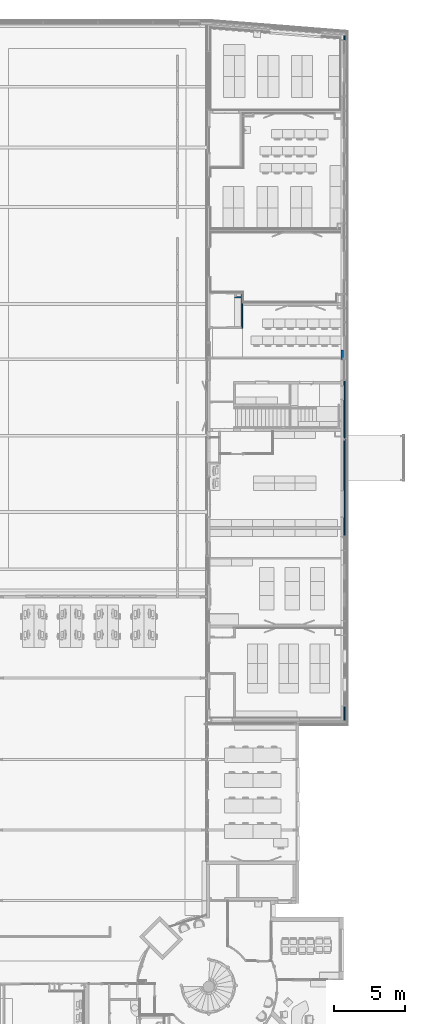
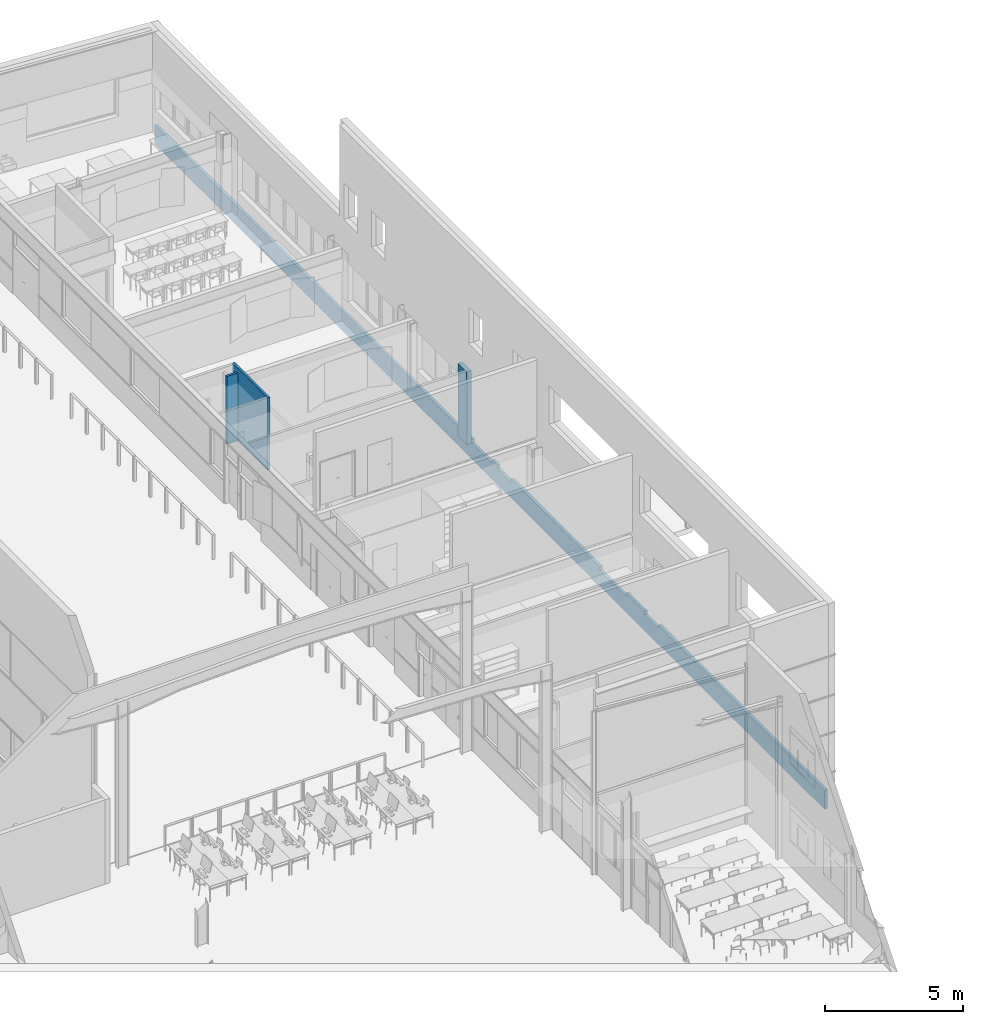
# One storey, part 64 of 137: 4 walls, 4 openings.
"""IFC2X3 building model written with IfcOpenShell, lengths in centimetres."""

from ifc_helpers import new_model, entity, si_unit, converted_unit, derived_unit, direction, frame, frame_2d, origin, origin_2d_with_axis, place, context, subcontext, project, spatial, polyline, rectangle, outline, extrude, clip, bounded_halfspace, material, layer, layer_set, layer_usage, type_object, element, save


model = new_model("IFC2X3")

# Units and contexts
model_context = context("Model", 3, precision=0.001, world=origin(), true_north=direction((6.12303176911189e-17, 1.0)))
body_context = subcontext(model_context, "Body", "Model", "MODEL_VIEW")
ifc_project = project(units=[si_unit("LENGTHUNIT", "METRE", prefix="CENTI"), si_unit("AREAUNIT", "SQUARE_METRE"), si_unit("VOLUMEUNIT", "CUBIC_METRE"), converted_unit("PLANEANGLEUNIT", "DEGREE", entity("IfcRatioMeasure", 0.0174532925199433), si_unit("PLANEANGLEUNIT", "RADIAN"), dimensions=[0, 0, 0, 0, 0, 0, 0]), si_unit("MASSUNIT", "GRAM", prefix="KILO"), si_unit("TIMEUNIT", "SECOND"), si_unit("FREQUENCYUNIT", "HERTZ"), si_unit("THERMODYNAMICTEMPERATUREUNIT", "DEGREE_CELSIUS"), derived_unit("THERMALTRANSMITTANCEUNIT", [(si_unit("MASSUNIT", "GRAM", prefix="KILO"), 1), (si_unit("THERMODYNAMICTEMPERATUREUNIT", "KELVIN"), -1), (si_unit("TIMEUNIT", "SECOND"), -3)]), derived_unit("VOLUMETRICFLOWRATEUNIT", [(si_unit("LENGTHUNIT", "METRE"), 3), (si_unit("TIMEUNIT", "SECOND"), -1)]), si_unit("ELECTRICCURRENTUNIT", "AMPERE"), si_unit("ELECTRICVOLTAGEUNIT", "VOLT"), si_unit("POWERUNIT", "WATT"), si_unit("FORCEUNIT", "NEWTON", prefix="KILO"), si_unit("ILLUMINANCEUNIT", "LUX"), si_unit("LUMINOUSFLUXUNIT", "LUMEN"), si_unit("LUMINOUSINTENSITYUNIT", "CANDELA"), derived_unit("USERDEFINED", [(si_unit("MASSUNIT", "GRAM", prefix="KILO"), -1), (si_unit("LENGTHUNIT", "METRE"), -2), (si_unit("TIMEUNIT", "SECOND"), 3), (si_unit("LUMINOUSFLUXUNIT", "LUMEN"), 1)]), derived_unit("LINEARVELOCITYUNIT", [(si_unit("LENGTHUNIT", "METRE"), 1), (si_unit("TIMEUNIT", "SECOND"), -1)]), si_unit("PRESSUREUNIT", "PASCAL"), derived_unit("USERDEFINED", [(si_unit("LENGTHUNIT", "METRE"), -2), (si_unit("MASSUNIT", "GRAM", prefix="KILO"), 1), (si_unit("TIMEUNIT", "SECOND"), -2)])], contexts=[model_context])

# Site, building, storey
site_placement = place(None, frame((8.62739174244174, -249.285249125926, 0.0)))
site = spatial("IfcSite", under=ifc_project, at=site_placement, Name="Default", CompositionType="ELEMENT")
building_placement = place(site_placement, origin())
building = spatial("IfcBuilding", under=site, at=building_placement, CompositionType="ELEMENT")
storey_placement = place(building_placement, origin())
storey = spatial("IfcBuildingStorey", under=building, at=storey_placement, Name="RDC", CompositionType="ELEMENT", Elevation=-8.82465566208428e-11)

# Walls
ifc_material_1 = material(Name="Plâtre")
ifc_layer_1 = layer(ifc_material_1, 10.0)
ifc_layer_set_1 = layer_set([ifc_layer_1], Name="Mur de base:PLA 10")
ifc_layer_usage_1 = layer_usage(ifc_layer_set_1, "AXIS2", "NEGATIVE", 5.0)
wall_type_1 = type_object("IfcWallType", Name="Mur de base:PLA 10", PredefinedType="STANDARD", material=ifc_layer_set_1)
wall_1_placement = place(storey_placement, frame((3272.90482780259, 5632.48020813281, 0.0), z_axis=(0.0, 0.0, 1.0), x_axis=(-1.0, 0.0, 0.0)))
element("IfcWallStandardCase", 1, at=wall_1_placement, inside=storey, type_object=wall_type_1, material=ifc_layer_usage_1, Name="Mur de base:PLA 10", ObjectType="Mur de base:PLA 10", context=body_context, shape_type="SweptSolid", body=[
    extrude(rectangle(XDim=45.2250558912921, YDim=9.99999999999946, at=frame_2d((22.6125279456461, 0.0), x_axis=(-1.0, 0.0))), origin(), (0.0, 0.0, 1.0), 300.0),
])
ifc_material_2 = material(Name="Béton, coulé sur place, gris")
ifc_layer_2 = layer(ifc_material_2, 20.0)
ifc_layer_set_2 = layer_set([ifc_layer_2], Name="Mur de base:BET 20")
ifc_layer_usage_2 = layer_usage(ifc_layer_set_2, "AXIS2", "NEGATIVE", 10.0)
wall_type_2 = type_object("IfcWallType", Name="Mur de base:BET 20", PredefinedType="STANDARD", material=ifc_layer_set_2)
wall_2_placement = place(storey_placement, frame((3988.90482781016, 5191.98020813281, 0.0), z_axis=(0.0, 0.0, 1.0), x_axis=(0.0, 1.0, 0.0)))
element("IfcWallStandardCase", 2, at=wall_2_placement, inside=storey, type_object=wall_type_2, material=ifc_layer_usage_2, Name="Mur de base:BET 20", ObjectType="Mur de base:BET 20", context=body_context, shape_type="SweptSolid", body=[
    extrude(rectangle(XDim=65.5000000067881, YDim=20.0000000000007, at=frame_2d((32.7500000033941, 0.0), x_axis=(-1.0, 0.0))), origin(), (0.0, 0.0, 1.0), 320.000000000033),
])
ifc_material_3 = material(Name="Stuc")
ifc_layer_3 = layer(ifc_material_3, 10.0)
ifc_layer_set_3 = layer_set([ifc_layer_3], Name="Mur de base:CIM 10")
ifc_layer_usage_3 = layer_usage(ifc_layer_set_3, "AXIS2", "NEGATIVE", 5.0)
wall_type_3 = type_object("IfcWallType", Name="Mur de base:CIM 10", PredefinedType="STANDARD", material=ifc_layer_set_3)
wall_3_placement = place(storey_placement, frame((3277.90482780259, 5667.48020813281, 0.0), z_axis=(0.0, 0.0, 1.0), x_axis=(0.0, -1.0, 0.0)))
element("IfcWallStandardCase", 3, at=wall_3_placement, inside=storey, type_object=wall_type_3, material=ifc_layer_usage_3, Name="Mur de base:CIM 10", ObjectType="Mur de base:CIM 10", context=body_context, shape_type="Clipping", body=[
    clip(extrude(rectangle(XDim=254.999999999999, YDim=10.0000000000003, at=frame_2d((127.5, 0.0), x_axis=(-1.0, 0.0))), origin(), (0.0, 0.0, 1.0), 320.000000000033), bounded_halfspace(frame((0.0, -5.0, 320.0), z_axis=(0.0, 0.0, -1.0), x_axis=(-1.0, 0.0, 0.0)), True, frame((0.0, -5.0, 320.0)), polyline([(0.0, 0.0), (10.0, 0.0), (245.0, 0.0), (255.0, 0.0), (255.0, 10.0), (0.0, 10.0), (0.0, 0.0)]))),
])

# Wall, openings
ifc_material_4 = material(Name="Maçonnerie")
ifc_layer_4 = layer(ifc_material_4, 1.0)
ifc_material_5 = material(Name="Laine minérale")
ifc_layer_5 = layer(ifc_material_5, 9.0)
ifc_layer_6 = layer(ifc_material_1, 2.0)
ifc_layer_set_4 = layer_set([ifc_layer_4, ifc_layer_5, ifc_layer_6], Name="Mur de base:PLA 2 +  + ISO 9 + ETAN 1")
ifc_layer_usage_4 = layer_usage(ifc_layer_set_4, "AXIS2", "POSITIVE", -6.0)
wall_type_4 = type_object("IfcWallType", Name="Mur de base:PLA 2 +  + ISO 9 + ETAN 1", PredefinedType="STANDARD", material=ifc_layer_set_4)
wall_4_placement = place(storey_placement, frame((4004.90482781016, 7488.2980119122, -69.999909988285), z_axis=(0.0, 0.0, 1.0), x_axis=(0.0, -1.0, 0.0)))
wall_4 = element("IfcWallStandardCase", 4, at=wall_4_placement, inside=storey, type_object=wall_type_4, material=ifc_layer_usage_4, Name="Mur de base:PLA 2 +  + ISO 9 + ETAN 1", ObjectType="Mur de base:PLA 2 +  + ISO 9 + ETAN 1", context=body_context, shape_type="SweptSolid", body=[
    extrude(outline(polyline([(4853.31780384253, -6.0), (4853.31780384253, 6.0), (0.948852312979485, 6.0), (0.0, -6.0), (4853.31780384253, -6.0)])), origin(), (0.0, 0.0, 1.0), 84.9999099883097),
])
opening_1_placement = place(wall_4_placement, origin())
element("IfcOpeningElement", 5, at=opening_1_placement, cuts=wall_4, Name="Mur de base:PLA 2 +  + ISO 9 + ETAN 1", ObjectType="Opening", context=body_context, shape_type="SweptSolid", body=[
    extrude(rectangle(XDim=206.999999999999, YDim=148.999999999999, at=frame_2d((0.0, 0.0), x_axis=(0.0, 1.0))), frame((2370.81780377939, -158.399999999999, 173.499909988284), z_axis=(0.0, 1.0, 0.0), x_axis=(-1.0, 0.0, 0.0)), (0.0, 0.0, 1.0), 304.8),
])
opening_2_placement = place(wall_4_placement, origin())
element("IfcOpeningElement", 6, at=opening_2_placement, cuts=wall_4, Name="Mur de base:PLA 2 +  + ISO 9 + ETAN 1", ObjectType="Opening", context=body_context, shape_type="SweptSolid", body=[
    extrude(rectangle(XDim=207.499999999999, YDim=99.9999999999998, at=origin_2d_with_axis()), frame((2531.31780377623, -158.4, 173.749909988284), z_axis=(0.0, 1.0, 0.0), x_axis=(0.0, 0.0, 1.0)), (0.0, 0.0, 1.0), 304.8),
])
opening_3_placement = place(wall_4_placement, origin())
element("IfcOpeningElement", 7, at=opening_3_placement, cuts=wall_4, Name="Mur de base:PLA 2 +  + ISO 9 + ETAN 1", ObjectType="Opening", context=body_context, shape_type="SweptSolid", body=[
    extrude(rectangle(XDim=206.999999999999, YDim=188.999999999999, at=frame_2d((0.0, 4.33431068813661e-13), x_axis=(1.0, 0.0))), frame((3318.61281854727, -158.399999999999, 173.499909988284), z_axis=(0.0, 1.0, 0.0), x_axis=(0.0, 0.0, 1.0)), (0.0, 0.0, 1.0), 304.8),
])
opening_4_placement = place(wall_4_placement, origin())
element("IfcOpeningElement", 8, at=opening_4_placement, cuts=wall_4, Name="Mur de base:PLA 2 +  + ISO 9 + ETAN 1", ObjectType="Opening", context=body_context, shape_type="SweptSolid", body=[
    extrude(rectangle(XDim=207.499999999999, YDim=100.000000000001, at=frame_2d((-4.33431068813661e-13, 0.0), x_axis=(0.0, 1.0))), frame((3598.11281854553, -158.4, 173.749909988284), z_axis=(0.0, 1.0, 0.0), x_axis=(-1.0, 0.0, 0.0)), (0.0, 0.0, 1.0), 304.8),
])

save(model, "model.ifc")
